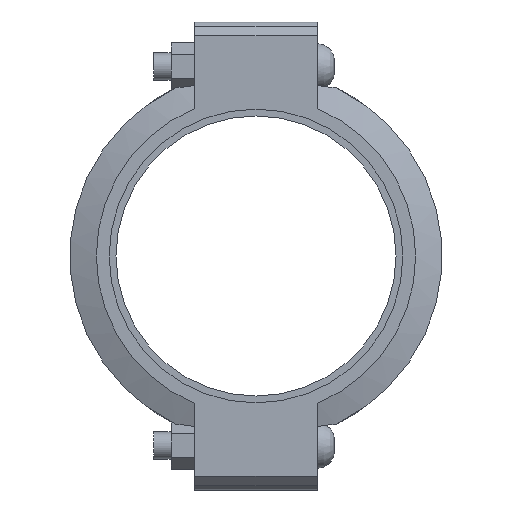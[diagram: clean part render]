
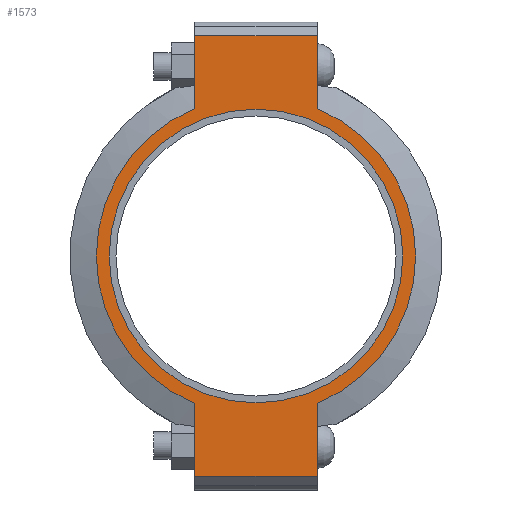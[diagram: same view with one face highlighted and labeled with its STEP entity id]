
A CAD part, left-side view. The second image highlights one B-rep face of the part: STEP entity #1573.
In plain terms, the highlighted planar face has unit normal (-1, 0, 0) as drawn and (0, 0, 1) by its records, which use the part's own axes.
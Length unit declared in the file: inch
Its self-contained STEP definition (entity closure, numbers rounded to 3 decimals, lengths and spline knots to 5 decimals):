
#144=LINE('',#2717,#233);
#155=LINE('',#2768,#244);
#161=LINE('',#2794,#250);
#163=LINE('',#2797,#252);
#164=LINE('',#2802,#253);
#165=LINE('',#2803,#254);
#233=VECTOR('',#2221,0.3937);
#244=VECTOR('',#2252,0.3937);
#250=VECTOR('',#2270,0.3937);
#252=VECTOR('',#2274,0.3937);
#253=VECTOR('',#2279,0.3937);
#254=VECTOR('',#2280,0.3937);
#316=FACE_BOUND('',#493,.T.);
#384=FACE_OUTER_BOUND('',#492,.T.);
#492=EDGE_LOOP('',(#1268,#1269,#1270,#1271,#1272,#1273,#1274,#1275));
#493=EDGE_LOOP('',(#1276));
#575=CIRCLE('',#1801,5.375);
#599=CIRCLE('',#1853,5.845);
#600=CIRCLE('',#1854,5.845);
#671=VERTEX_POINT('',#2543);
#712=VERTEX_POINT('',#2714);
#713=VERTEX_POINT('',#2716);
#730=VERTEX_POINT('',#2763);
#731=VERTEX_POINT('',#2767);
#738=VERTEX_POINT('',#2789);
#739=VERTEX_POINT('',#2793);
#740=VERTEX_POINT('',#2799);
#741=VERTEX_POINT('',#2801);
#835=EDGE_CURVE('',#671,#671,#575,.T.);
#892=EDGE_CURVE('',#713,#712,#144,.T.);
#913=EDGE_CURVE('',#731,#730,#155,.T.);
#924=EDGE_CURVE('',#739,#738,#161,.T.);
#926=EDGE_CURVE('',#739,#712,#163,.T.);
#927=EDGE_CURVE('',#738,#740,#599,.T.);
#928=EDGE_CURVE('',#740,#741,#164,.T.);
#929=EDGE_CURVE('',#731,#741,#165,.T.);
#930=EDGE_CURVE('',#730,#713,#600,.T.);
#1268=ORIENTED_EDGE('',*,*,#926,.F.);
#1269=ORIENTED_EDGE('',*,*,#924,.T.);
#1270=ORIENTED_EDGE('',*,*,#927,.T.);
#1271=ORIENTED_EDGE('',*,*,#928,.T.);
#1272=ORIENTED_EDGE('',*,*,#929,.F.);
#1273=ORIENTED_EDGE('',*,*,#913,.T.);
#1274=ORIENTED_EDGE('',*,*,#930,.T.);
#1275=ORIENTED_EDGE('',*,*,#892,.T.);
#1276=ORIENTED_EDGE('',*,*,#835,.T.);
#1413=PLANE('',#1852);
#1573=ADVANCED_FACE('',(#384,#316),#1413,.T.);
#1801=AXIS2_PLACEMENT_3D('',#2545,#2111,#2112);
#1852=AXIS2_PLACEMENT_3D('',#2798,#2275,#2276);
#1853=AXIS2_PLACEMENT_3D('',#2800,#2277,#2278);
#1854=AXIS2_PLACEMENT_3D('',#2804,#2281,#2282);
#2111=DIRECTION('center_axis',(0.,0.,-1.));
#2112=DIRECTION('ref_axis',(-1.,0.,0.));
#2221=DIRECTION('',(-1.,0.,0.));
#2252=DIRECTION('',(-1.,0.,0.));
#2270=DIRECTION('',(1.,0.,0.));
#2274=DIRECTION('',(0.,1.,0.));
#2275=DIRECTION('center_axis',(0.,0.,1.));
#2276=DIRECTION('ref_axis',(1.,0.,0.));
#2277=DIRECTION('center_axis',(0.,0.,1.));
#2278=DIRECTION('ref_axis',(-1.,0.,0.));
#2279=DIRECTION('',(1.,0.,0.));
#2280=DIRECTION('',(0.,-1.,0.));
#2281=DIRECTION('center_axis',(0.,0.,1.));
#2282=DIRECTION('ref_axis',(-1.,0.,0.));
#2543=CARTESIAN_POINT('',(5.375,0.,1.315));
#2545=CARTESIAN_POINT('Origin',(0.,0.,1.315));
#2714=CARTESIAN_POINT('',(-8.065,2.25,1.315));
#2716=CARTESIAN_POINT('',(-5.39458,2.25,1.315));
#2717=CARTESIAN_POINT('',(8.565,2.25,1.315));
#2763=CARTESIAN_POINT('',(5.39458,2.25,1.315));
#2767=CARTESIAN_POINT('',(8.065,2.25,1.315));
#2768=CARTESIAN_POINT('',(8.565,2.25,1.315));
#2789=CARTESIAN_POINT('',(-5.39458,-2.25,1.315));
#2793=CARTESIAN_POINT('',(-8.065,-2.25,1.315));
#2794=CARTESIAN_POINT('',(-8.565,-2.25,1.315));
#2797=CARTESIAN_POINT('',(-8.065,1.125,1.315));
#2798=CARTESIAN_POINT('Origin',(0.,0.,
1.315));
#2799=CARTESIAN_POINT('',(5.39458,-2.25,1.315));
#2800=CARTESIAN_POINT('Origin',(0.,0.,1.315));
#2801=CARTESIAN_POINT('',(8.065,-2.25,1.315));
#2802=CARTESIAN_POINT('',(-8.565,-2.25,1.315));
#2803=CARTESIAN_POINT('',(8.065,-1.125,1.315));
#2804=CARTESIAN_POINT('Origin',(0.,0.,1.315));
